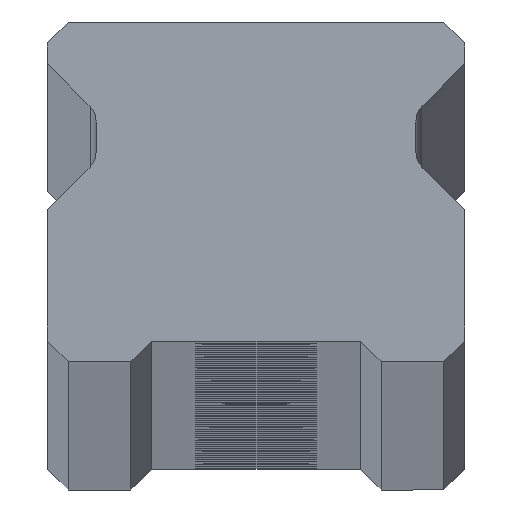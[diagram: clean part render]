
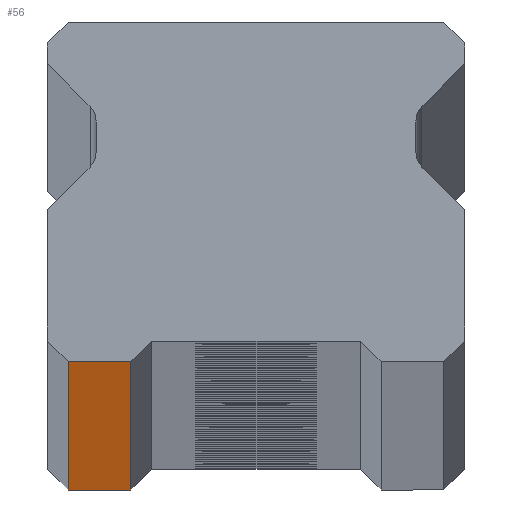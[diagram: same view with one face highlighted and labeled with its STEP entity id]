
A CAD part, top view. The second image highlights one B-rep face of the part: STEP entity #56.
In plain terms, the highlighted planar face has unit normal (0, -1, 0).
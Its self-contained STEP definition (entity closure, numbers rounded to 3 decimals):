
#56 = ADVANCED_FACE ( 'NONE', ( #525 ), #8698, .F. ) ;
#356 = AXIS2_PLACEMENT_3D ( 'NONE', #1718, #7860, #1065 ) ;
#361 = CARTESIAN_POINT ( 'NONE',  ( -6., 0., -1760. ) ) ;
#525 = FACE_OUTER_BOUND ( 'NONE', #9569, .T. ) ;
#1065 = DIRECTION ( 'NONE',  ( -1., 0., 0. ) ) ;
#1136 = VERTEX_POINT ( 'NONE', #8187 ) ;
#1717 = ORIENTED_EDGE ( 'NONE', *, *, #5054, .F. ) ;
#1718 = CARTESIAN_POINT ( 'NONE',  ( 10., 0., 1760. ) ) ;
#1763 = VECTOR ( 'NONE', #5885, 1000. ) ;
#1809 = CARTESIAN_POINT ( 'NONE',  ( -9., 0., -1760. ) ) ;
#2420 = DIRECTION ( 'NONE',  ( 1., 0., 0. ) ) ;
#2552 = VECTOR ( 'NONE', #9692, 1000. ) ;
#2858 = CARTESIAN_POINT ( 'NONE',  ( -9., 0., 1760. ) ) ;
#2943 = CARTESIAN_POINT ( 'NONE',  ( -6., 0., 1760. ) ) ;
#3141 = LINE ( 'NONE', #361, #2552 ) ;
#3428 = LINE ( 'NONE', #5606, #5359 ) ;
#3445 = LINE ( 'NONE', #8312, #1763 ) ;
#4485 = VERTEX_POINT ( 'NONE', #2858 ) ;
#5054 = EDGE_CURVE ( 'NONE', #4485, #8114, #3445, .T. ) ;
#5238 = LINE ( 'NONE', #7797, #9808 ) ;
#5359 = VECTOR ( 'NONE', #8845, 1000. ) ;
#5466 = ORIENTED_EDGE ( 'NONE', *, *, #9789, .T. ) ;
#5606 = CARTESIAN_POINT ( 'NONE',  ( -9., 0., 1760. ) ) ;
#5885 = DIRECTION ( 'NONE',  ( 1., 0., 0. ) ) ;
#6112 = ORIENTED_EDGE ( 'NONE', *, *, #6816, .T. ) ;
#6816 = EDGE_CURVE ( 'NONE', #8287, #1136, #5238, .T. ) ;
#6939 = EDGE_CURVE ( 'NONE', #4485, #8287, #3428, .T. ) ;
#7075 = ORIENTED_EDGE ( 'NONE', *, *, #6939, .T. ) ;
#7797 = CARTESIAN_POINT ( 'NONE',  ( 10., 0., -1760. ) ) ;
#7860 = DIRECTION ( 'NONE',  ( 0., 1., 0. ) ) ;
#8114 = VERTEX_POINT ( 'NONE', #2943 ) ;
#8187 = CARTESIAN_POINT ( 'NONE',  ( -6., 0., -1760. ) ) ;
#8287 = VERTEX_POINT ( 'NONE', #1809 ) ;
#8312 = CARTESIAN_POINT ( 'NONE',  ( 10., 0., 1760. ) ) ;
#8698 = PLANE ( 'NONE',  #356 ) ;
#8845 = DIRECTION ( 'NONE',  ( 0., 0., -1. ) ) ;
#9569 = EDGE_LOOP ( 'NONE', ( #6112, #5466, #1717, #7075 ) ) ;
#9692 = DIRECTION ( 'NONE',  ( 0., 0., 1. ) ) ;
#9789 = EDGE_CURVE ( 'NONE', #1136, #8114, #3141, .T. ) ;
#9808 = VECTOR ( 'NONE', #2420, 1000. ) ;
